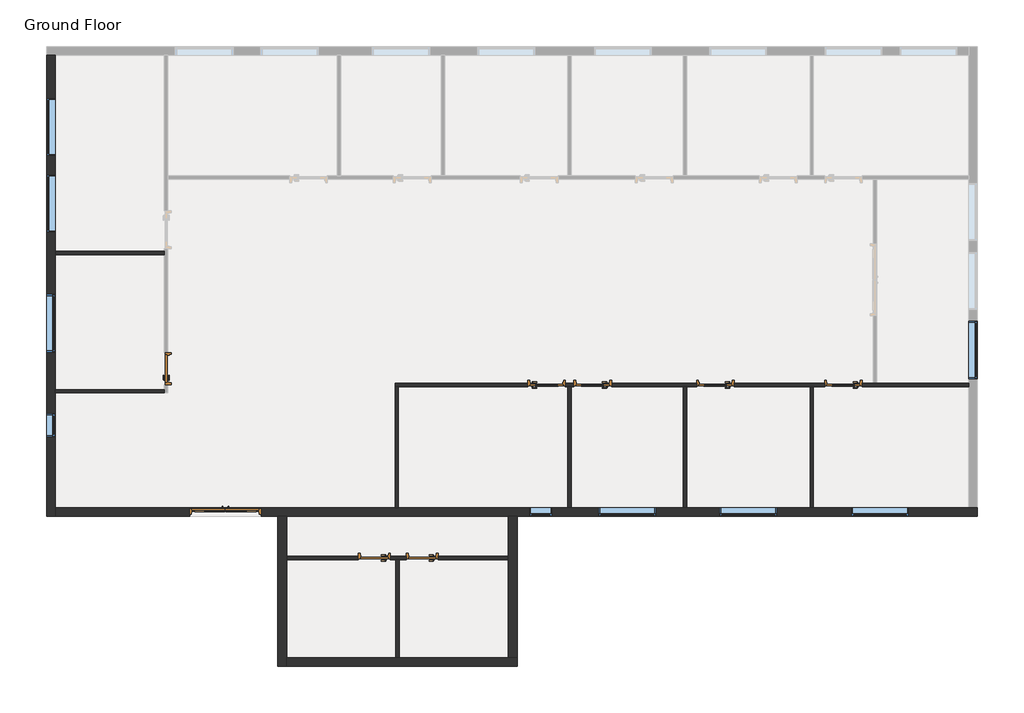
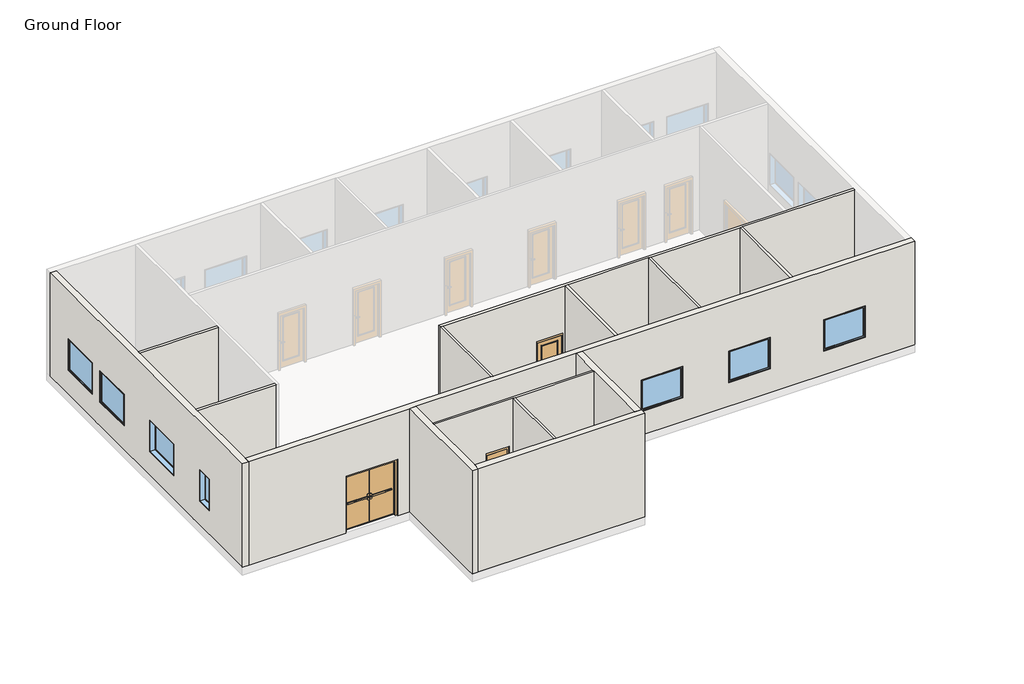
# One storey, part 1 of 2: 14 walls, 9 windows, 8 doors.
"""IFC4 building model written with IfcOpenShell, lengths in millimetres."""

from ifc_helpers import new_model, si_unit, origin, origin_with_axes, place, context, project, spatial, polyline, outline, extrude, faceted_brep, transform, mapped, element, save
from components import m_door_exterior_double_1800_x_2100mm_0d7f6d30, m_door_passage_single_flush_750_x_2100mm_cfc78163, m_door_passage_single_two_lite_900_x_2100mm_9ab57f22, m_door_passage_single_two_lite_900_x_2100mm_fdf17de1, m_fixed_0610_x_1220mm_cd310c26, m_fixed_1524_x1220_mm_ccb4a2ee

model = new_model("IFC4")

# Units and contexts
model_context = context("Model", 3, world=origin())
ifc_project = project(units=[si_unit("LENGTHUNIT", "METRE", prefix="MILLI")], contexts=[model_context])

# Site, building, storey
site = spatial("IfcSite", under=ifc_project)
building = spatial("IfcBuilding", under=site)
storey = spatial("IfcBuildingStorey", under=building, Name="Ground Floor", Elevation=0.0)

# Doors
placement = place(None, origin())
m_door_exterior_double_1800_x_2100mm_shape = m_door_exterior_double_1800_x_2100mm_0d7f6d30(model_context)
element("IfcDoor", 1, ObjectType="M_Door-Exterior-Double : 1800 x 2100mm", at=placement, inside=storey, context=model_context, shape_type="MappedRepresentation", body=[
    mapped(m_door_exterior_double_1800_x_2100mm_shape, transform((-13082.7301809, -6071.0915238, 0.0), x_axis=(1.0, 0.0, 0.0), y_axis=(0.0, 1.0, 0.0), z_axis=(0.0, 0.0, 1.0))),
])
m_door_passage_single_flush_750_x_2100mm_shape = m_door_passage_single_flush_750_x_2100mm_cfc78163(model_context)
element("IfcDoor", 2, ObjectType="M_Door-Passage-Single-Flush : 750 x 2100mm", at=placement, inside=storey, context=model_context, shape_type="MappedRepresentation", body=[
    mapped(m_door_passage_single_flush_750_x_2100mm_shape, transform((-14643.3801809, -2272.7415238, 0.0), x_axis=(0.0, 1.0, 0.0), y_axis=(-1.0, 0.0, 0.0), z_axis=(0.0, 0.0, 1.0))),
])
element("IfcDoor", 3, ObjectType="M_Door-Passage-Single-Flush : 750 x 2100mm", at=placement, inside=storey, context=model_context, shape_type="MappedRepresentation", body=[
    mapped(m_door_passage_single_flush_750_x_2100mm_shape, transform((-9144.7301809, -7277.5915238, 0.0), x_axis=(-1.0, 0.0, 0.0), y_axis=(0.0, -1.0, 0.0), z_axis=(0.0, 0.0, 1.0))),
])
element("IfcDoor", 4, ObjectType="M_Door-Passage-Single-Flush : 750 x 2100mm", at=placement, inside=storey, context=model_context, shape_type="MappedRepresentation", body=[
    mapped(m_door_passage_single_flush_750_x_2100mm_shape, transform((-7879.7301809, -7277.5915238, 0.0), x_axis=(-1.0, 0.0, 0.0), y_axis=(0.0, -1.0, 0.0), z_axis=(0.0, 0.0, 1.0))),
])
m_door_passage_single_two_lite_900_x_2100mm_shape = m_door_passage_single_two_lite_900_x_2100mm_9ab57f22(model_context)
element("IfcDoor", 5, ObjectType="M_Door-Passage-Single-Two_Lite : 900 x 2100mm", at=placement, inside=storey, context=model_context, shape_type="MappedRepresentation", body=[
    mapped(m_door_passage_single_two_lite_900_x_2100mm_shape, transform((-3371.7301809, -2705.5915238, 0.0), x_axis=(-1.0, 0.0, 0.0), y_axis=(0.0, -1.0, 0.0), z_axis=(0.0, 0.0, 1.0))),
])
element("IfcDoor", 6, ObjectType="M_Door-Passage-Single-Two_Lite : 900 x 2100mm", at=placement, inside=storey, context=model_context, shape_type="MappedRepresentation", body=[
    mapped(m_door_passage_single_two_lite_900_x_2100mm_shape, transform((-126.7301809, -2705.5915238, 0.0), x_axis=(-1.0, 0.0, 0.0), y_axis=(0.0, -1.0, 0.0), z_axis=(0.0, 0.0, 1.0))),
])
element("IfcDoor", 7, ObjectType="M_Door-Passage-Single-Two_Lite : 900 x 2100mm", at=placement, inside=storey, context=model_context, shape_type="MappedRepresentation", body=[
    mapped(m_door_passage_single_two_lite_900_x_2100mm_shape, transform((3257.0698191, -2705.5915238, 0.0), x_axis=(-1.0, 0.0, 0.0), y_axis=(0.0, -1.0, 0.0), z_axis=(0.0, 0.0, 1.0))),
])
m_door_passage_single_two_lite_900_x_2100mm_2_shape = m_door_passage_single_two_lite_900_x_2100mm_fdf17de1(model_context)
element("IfcDoor", 8, ObjectType="M_Door-Passage-Single-Two_Lite : 900 x 2100mm", at=placement, inside=storey, context=model_context, shape_type="MappedRepresentation", body=[
    mapped(m_door_passage_single_two_lite_900_x_2100mm_2_shape, transform((-4591.7301809, -2705.5915238, 0.0), x_axis=(1.0, 0.0, 0.0), y_axis=(0.0, 1.0, 0.0), z_axis=(0.0, 0.0, 1.0))),
])

# Walls
element("IfcWall", 9, ObjectType="Generic - 230mm", at=placement, inside=storey, context=model_context, shape_type="Brep", body=[
    faceted_brep([(-17582.7301809, -6179.7415238, 0.0), (-17582.7301809, -5949.7415238, 0.0), (-17582.7301809, -2917.7415238, 0.0), (-17582.7301809, -2827.7415238, 0.0), (-17582.7301809, 739.8584762, 0.0), (-17582.7301809, 829.8584762, 0.0), (-17582.7301809, 6012.2584762, 0.0), (-17582.7301809, 6012.2584762, 4000.0), (-17582.7301809, 829.8584762, 4000.0), (-17582.7301809, 739.8584762, 4000.0), (-17582.7301809, -2827.7415238, 4000.0), (-17582.7301809, -2917.7415238, 4000.0), (-17582.7301809, -5949.7415238, 4000.0), (-17582.7301809, -6179.7415238, 4000.0), (-17582.7301809, -3467.7415238, 915.0), (-17582.7301809, -4077.7415238, 915.0), (-17582.7301809, -4077.7415238, 2135.0), (-17582.7301809, -3467.7415238, 2135.0), (-17582.7301809, -310.7415238, 915.0), (-17582.7301809, -1834.7415238, 915.0), (-17582.7301809, -1834.7415238, 2135.0), (-17582.7301809, -310.7415238, 2135.0), (-17582.7301809, 1329.8584762, 915.0), (-17582.7301809, 1329.8584762, 2135.0), (-17582.7301809, 2853.8584762, 2135.0), (-17582.7301809, 2853.8584762, 915.0), (-17582.7301809, 3353.8584762, 915.0), (-17582.7301809, 3353.8584762, 2135.0), (-17582.7301809, 4877.8584762, 2135.0), (-17582.7301809, 4877.8584762, 915.0), (-17812.7301809, -6179.7415238, 0.0), (-17812.7301809, -6179.7415238, 4000.0), (-17812.7301809, 6012.2584762, 4000.0), (-17812.7301809, 6012.2584762, 0.0), (-17812.7301809, -3467.7415238, 915.0), (-17812.7301809, -3467.7415238, 2135.0), (-17812.7301809, -4077.7415238, 2135.0), (-17812.7301809, -4077.7415238, 915.0), (-17812.7301809, -310.7415238, 915.0), (-17812.7301809, -310.7415238, 2135.0), (-17812.7301809, -1834.7415238, 2135.0), (-17812.7301809, -1834.7415238, 915.0), (-17812.7301809, 1329.8584762, 915.0), (-17812.7301809, 2853.8584762, 915.0), (-17812.7301809, 2853.8584762, 2135.0), (-17812.7301809, 1329.8584762, 2135.0), (-17812.7301809, 3353.8584762, 915.0), (-17812.7301809, 4877.8584762, 915.0), (-17812.7301809, 4877.8584762, 2135.0), (-17812.7301809, 3353.8584762, 2135.0)], [[[0, 1, 2, 3, 4, 5, 6, 7, 8, 9, 10, 11, 12, 13], [14, 15, 16, 17], [18, 19, 20, 21], [22, 23, 24, 25], [26, 27, 28, 29]], [[30, 31, 32, 33], [34, 35, 36, 37], [38, 39, 40, 41], [42, 43, 44, 45], [46, 47, 48, 49]], [[6, 5, 4, 3, 2, 1, 0, 30, 33]], [[13, 12, 11, 10, 9, 8, 7, 32, 31]], [[0, 13, 31, 30]], [[7, 6, 33, 32]], [[35, 34, 14, 17]], [[36, 35, 17, 16]], [[37, 36, 16, 15]], [[34, 37, 15, 14]], [[39, 38, 18, 21]], [[40, 39, 21, 20]], [[41, 40, 20, 19]], [[38, 41, 19, 18]], [[23, 22, 42, 45]], [[24, 23, 45, 44]], [[25, 24, 44, 43]], [[22, 25, 43, 42]], [[27, 26, 46, 49]], [[28, 27, 49, 48]], [[29, 28, 48, 47]], [[26, 29, 47, 46]]]),
])
element("IfcWall", 10, ObjectType="Generic - 230mm", at=placement, inside=storey, context=model_context, shape_type="Brep", body=[
    faceted_brep([(-17582.7301809, -5949.7415238, 4000.0), (-8598.7301809, -5949.7415238, 4000.0), (-8508.7301809, -5949.7415238, 4000.0), (-4026.7301809, -5949.7415238, 4000.0), (-3936.7301809, -5949.7415238, 4000.0), (-978.7301809, -5949.7415238, 4000.0), (-888.7301809, -5949.7415238, 4000.0), (2374.0698191, -5949.7415238, 4000.0), (2464.0698191, -5949.7415238, 4000.0), (6571.2698191, -5949.7415238, 4000.0), (6801.2698191, -5949.7415238, 4000.0), (6801.2698191, -5949.7415238, 0.0), (6571.2698191, -5949.7415238, 0.0), (2464.0698191, -5949.7415238, 0.0), (2374.0698191, -5949.7415238, 0.0), (-888.7301809, -5949.7415238, 0.0), (-978.7301809, -5949.7415238, 0.0), (-3936.7301809, -5949.7415238, 0.0), (-4026.7301809, -5949.7415238, 0.0), (-8508.7301809, -5949.7415238, 0.0), (-8598.7301809, -5949.7415238, 0.0), (-12132.7301809, -5949.7415238, 0.0), (-12132.7301809, -5949.7415238, 2200.0), (-14032.7301809, -5949.7415238, 2200.0), (-14032.7301809, -5949.7415238, 0.0), (-17582.7301809, -5949.7415238, 0.0), (-4438.7301809, -5949.7415238, 915.0), (-4438.7301809, -5949.7415238, 2135.0), (-5048.7301809, -5949.7415238, 2135.0), (-5048.7301809, -5949.7415238, 915.0), (-1695.7301809, -5949.7415238, 915.0), (-1695.7301809, -5949.7415238, 2135.0), (-3219.7301809, -5949.7415238, 2135.0), (-3219.7301809, -5949.7415238, 915.0), (1504.6698191, -5949.7415238, 915.0), (1504.6698191, -5949.7415238, 2135.0), (-19.3301809, -5949.7415238, 2135.0), (-19.3301809, -5949.7415238, 915.0), (4988.0698191, -5949.7415238, 915.0), (4988.0698191, -5949.7415238, 2135.0), (3464.0698191, -5949.7415238, 2135.0), (3464.0698191, -5949.7415238, 915.0), (6801.2698191, -6179.7415238, 4000.0), (-5371.7301809, -6179.7415238, 4000.0), (-5601.7301809, -6179.7415238, 4000.0), (-11467.7301809, -6179.7415238, 4000.0), (-11697.7301809, -6179.7415238, 4000.0), (-17582.7301809, -6179.7415238, 4000.0), (-17582.7301809, -6179.7415238, 0.0), (-14032.7301809, -6179.7415238, 0.0), (-14032.7301809, -6179.7415238, 2200.0), (-12132.7301809, -6179.7415238, 2200.0), (-12132.7301809, -6179.7415238, 0.0), (-11697.7301809, -6179.7415238, 0.0), (-11467.7301809, -6179.7415238, 0.0), (-5601.7301809, -6179.7415238, 0.0), (-5371.7301809, -6179.7415238, 0.0), (6801.2698191, -6179.7415238, 0.0), (-4438.7301809, -6179.7415238, 915.0), (-5048.7301809, -6179.7415238, 915.0), (-5048.7301809, -6179.7415238, 2135.0), (-4438.7301809, -6179.7415238, 2135.0), (-1695.7301809, -6179.7415238, 915.0), (-3219.7301809, -6179.7415238, 915.0), (-3219.7301809, -6179.7415238, 2135.0), (-1695.7301809, -6179.7415238, 2135.0), (1504.6698191, -6179.7415238, 915.0), (-19.3301809, -6179.7415238, 915.0), (-19.3301809, -6179.7415238, 2135.0), (1504.6698191, -6179.7415238, 2135.0), (4988.0698191, -6179.7415238, 915.0), (3464.0698191, -6179.7415238, 915.0), (3464.0698191, -6179.7415238, 2135.0), (4988.0698191, -6179.7415238, 2135.0)], [[[0, 1, 2, 3, 4, 5, 6, 7, 8, 9, 10, 11, 12, 13, 14, 15, 16, 17, 18, 19, 20, 21, 22, 23, 24, 25], [26, 27, 28, 29], [30, 31, 32, 33], [34, 35, 36, 37], [38, 39, 40, 41]], [[42, 43, 44, 45, 46, 47, 48, 49, 50, 51, 52, 53, 54, 55, 56, 57], [58, 59, 60, 61], [62, 63, 64, 65], [66, 67, 68, 69], [70, 71, 72, 73]], [[11, 57, 56, 55, 54, 53, 52, 21, 20, 19, 18, 17, 16, 15, 14, 13, 12]], [[48, 25, 24, 49]], [[10, 9, 8, 7, 6, 5, 4, 3, 2, 1, 0, 47, 46, 45, 44, 43, 42]], [[11, 10, 42, 57]], [[0, 25, 48, 47]], [[51, 22, 21, 52]], [[22, 51, 50, 23]], [[23, 50, 49, 24]], [[27, 26, 58, 61]], [[28, 27, 61, 60]], [[29, 28, 60, 59]], [[26, 29, 59, 58]], [[31, 30, 62, 65]], [[32, 31, 65, 64]], [[33, 32, 64, 63]], [[30, 33, 63, 62]], [[35, 34, 66, 69]], [[36, 35, 69, 68]], [[37, 36, 68, 67]], [[34, 37, 67, 66]], [[39, 38, 70, 73]], [[40, 39, 73, 72]], [[41, 40, 72, 71]], [[38, 41, 71, 70]]]),
])
element("IfcWall", 11, ObjectType="Generic - 230mm", at=placement, inside=storey, context=model_context, shape_type="Brep", body=[
    faceted_brep([(-11697.7301809, -6179.7415238, 0.0), (-11697.7301809, -10142.1415238, 0.0), (-11697.7301809, -10142.1415238, 4000.0), (-11697.7301809, -6179.7415238, 4000.0), (-11467.7301809, -6179.7415238, 0.0), (-11467.7301809, -6179.7415238, 4000.0), (-11467.7301809, -7238.9415238, 4000.0), (-11467.7301809, -7328.9415238, 4000.0), (-11467.7301809, -9912.1415238, 4000.0), (-11467.7301809, -10142.1415238, 4000.0), (-11467.7301809, -10142.1415238, 0.0), (-11467.7301809, -9912.1415238, 0.0), (-11467.7301809, -7328.9415238, 0.0), (-11467.7301809, -7238.9415238, 0.0)], [[[0, 1, 2, 3]], [[4, 5, 6, 7, 8, 9, 10, 11, 12, 13]], [[1, 0, 4, 13, 12, 11, 10]], [[3, 2, 9, 8, 7, 6, 5]], [[0, 3, 5, 4]], [[2, 1, 10, 9]]]),
])
element("IfcWall", 12, ObjectType="Generic - 230mm", at=placement, inside=storey, context=model_context, shape_type="Brep", body=[
    faceted_brep([(-11467.7301809, -10142.1415238, 0.0), (-5371.7301809, -10142.1415238, 0.0), (-5371.7301809, -10142.1415238, 4000.0), (-11467.7301809, -10142.1415238, 4000.0), (-11467.7301809, -9912.1415238, 0.0), (-11467.7301809, -9912.1415238, 4000.0), (-8579.7301809, -9912.1415238, 4000.0), (-8489.7301809, -9912.1415238, 4000.0), (-5601.7301809, -9912.1415238, 4000.0), (-5371.7301809, -9912.1415238, 4000.0), (-5371.7301809, -9912.1415238, 0.0), (-5601.7301809, -9912.1415238, 0.0), (-8489.7301809, -9912.1415238, 0.0), (-8579.7301809, -9912.1415238, 0.0)], [[[0, 1, 2, 3]], [[4, 5, 6, 7, 8, 9, 10, 11, 12, 13]], [[1, 0, 4, 13, 12, 11, 10]], [[3, 2, 9, 8, 7, 6, 5]], [[0, 3, 5, 4]], [[2, 1, 10, 9]]]),
])
element("IfcWall", 13, ObjectType="Generic - 230mm", at=placement, inside=storey, context=model_context, shape_type="Brep", body=[
    faceted_brep([(-5371.7301809, -9912.1415238, 0.0), (-5371.7301809, -6179.7415238, 0.0), (-5371.7301809, -6179.7415238, 4000.0), (-5371.7301809, -9912.1415238, 4000.0), (-5601.7301809, -9912.1415238, 0.0), (-5601.7301809, -9912.1415238, 4000.0), (-5601.7301809, -7328.9415238, 4000.0), (-5601.7301809, -7238.9415238, 4000.0), (-5601.7301809, -6179.7415238, 4000.0), (-5601.7301809, -6179.7415238, 0.0), (-5601.7301809, -7238.9415238, 0.0), (-5601.7301809, -7328.9415238, 0.0)], [[[0, 1, 2, 3]], [[4, 5, 6, 7, 8, 9, 10, 11]], [[1, 0, 4, 11, 10, 9]], [[3, 2, 8, 7, 6, 5]], [[0, 3, 5, 4]], [[2, 1, 9, 8]]]),
])
element("IfcWall", 14, ObjectType="Generic - 90mm Brick", at=placement, inside=storey, context=model_context, shape_type="SweptSolid", body=[
    extrude(outline(polyline([(-17582.7301809, -2827.7415238), (-14694.7301809, -2827.7415238), (-14694.7301809, -2917.7415238), (-17582.7301809, -2917.7415238), (-17582.7301809, -2827.7415238)])), origin_with_axes(), (0.0, 0.0, 1.0), 4000.0),
])
element("IfcWall", 15, ObjectType="Generic - 90mm Brick", at=placement, inside=storey, context=model_context, shape_type="Brep", body=[
    faceted_brep([(-8598.7301809, -2666.9415238, 4000.0), (4050.4698191, -2666.9415238, 4000.0), (4140.4698191, -2666.9415238, 4000.0), (6571.2698191, -2666.9415238, 4000.0), (6571.2698191, -2666.9415238, 0.0), (4140.4698191, -2666.9415238, 0.0), (4050.4698191, -2666.9415238, 0.0), (3757.0698191, -2666.9415238, 0.0), (3757.0698191, -2666.9415238, 2200.0), (2757.0698191, -2666.9415238, 2200.0), (2757.0698191, -2666.9415238, 0.0), (373.2698191, -2666.9415238, 0.0), (373.2698191, -2666.9415238, 2200.0), (-626.7301809, -2666.9415238, 2200.0), (-626.7301809, -2666.9415238, 0.0), (-2871.7301809, -2666.9415238, 0.0), (-2871.7301809, -2666.9415238, 2200.0), (-3871.7301809, -2666.9415238, 2200.0), (-3871.7301809, -2666.9415238, 0.0), (-4091.7301809, -2666.9415238, 0.0), (-4091.7301809, -2666.9415238, 2200.0), (-5091.7301809, -2666.9415238, 2200.0), (-5091.7301809, -2666.9415238, 0.0), (-8598.7301809, -2666.9415238, 0.0), (6571.2698191, -2756.9415238, 4000.0), (2464.0698191, -2756.9415238, 4000.0), (2374.0698191, -2756.9415238, 4000.0), (-888.7301809, -2756.9415238, 4000.0), (-978.7301809, -2756.9415238, 4000.0), (-3936.7301809, -2756.9415238, 4000.0), (-4026.7301809, -2756.9415238, 4000.0), (-8508.7301809, -2756.9415238, 4000.0), (-8598.7301809, -2756.9415238, 4000.0), (-8598.7301809, -2756.9415238, 0.0), (-8508.7301809, -2756.9415238, 0.0), (-5091.7301809, -2756.9415238, 0.0), (-5091.7301809, -2756.9415238, 2200.0), (-4091.7301809, -2756.9415238, 2200.0), (-4091.7301809, -2756.9415238, 0.0), (-4026.7301809, -2756.9415238, 0.0), (-3936.7301809, -2756.9415238, 0.0), (-3871.7301809, -2756.9415238, 0.0), (-3871.7301809, -2756.9415238, 2200.0), (-2871.7301809, -2756.9415238, 2200.0), (-2871.7301809, -2756.9415238, 0.0), (-978.7301809, -2756.9415238, 0.0), (-888.7301809, -2756.9415238, 0.0), (-626.7301809, -2756.9415238, 0.0), (-626.7301809, -2756.9415238, 2200.0), (373.2698191, -2756.9415238, 2200.0), (373.2698191, -2756.9415238, 0.0), (2374.0698191, -2756.9415238, 0.0), (2464.0698191, -2756.9415238, 0.0), (2757.0698191, -2756.9415238, 0.0), (2757.0698191, -2756.9415238, 2200.0), (3757.0698191, -2756.9415238, 2200.0), (3757.0698191, -2756.9415238, 0.0), (6571.2698191, -2756.9415238, 0.0)], [[[0, 1, 2, 3, 4, 5, 6, 7, 8, 9, 10, 11, 12, 13, 14, 15, 16, 17, 18, 19, 20, 21, 22, 23]], [[24, 25, 26, 27, 28, 29, 30, 31, 32, 33, 34, 35, 36, 37, 38, 39, 40, 41, 42, 43, 44, 45, 46, 47, 48, 49, 50, 51, 52, 53, 54, 55, 56, 57]], [[4, 57, 56, 7, 6, 5]], [[33, 23, 22, 35, 34]], [[38, 19, 18, 41, 40, 39]], [[44, 15, 14, 47, 46, 45]], [[50, 11, 10, 53, 52, 51]], [[3, 2, 1, 0, 32, 31, 30, 29, 28, 27, 26, 25, 24]], [[4, 3, 24, 57]], [[0, 23, 33, 32]], [[20, 19, 38, 37]], [[21, 20, 37, 36]], [[22, 21, 36, 35]], [[18, 17, 42, 41]], [[17, 16, 43, 42]], [[16, 15, 44, 43]], [[13, 48, 47, 14]], [[48, 13, 12, 49]], [[49, 12, 11, 50]], [[9, 54, 53, 10]], [[54, 9, 8, 55]], [[55, 8, 7, 56]]]),
])
element("IfcWall", 16, ObjectType="Generic - 90mm Brick", at=placement, inside=storey, context=model_context, shape_type="SweptSolid", body=[
    extrude(outline(polyline([(-8598.7301809, -5949.7415238), (-8598.7301809, -2756.9415238), (-8508.7301809, -2756.9415238), (-8508.7301809, -5949.7415238), (-8598.7301809, -5949.7415238)])), origin_with_axes(), (0.0, 0.0, 1.0), 4000.0),
])
element("IfcWall", 17, ObjectType="Generic - 90mm Brick", at=placement, inside=storey, context=model_context, shape_type="SweptSolid", body=[
    extrude(outline(polyline([(2374.0698191, -5949.7415238), (2374.0698191, -2756.9415238), (2464.0698191, -2756.9415238), (2464.0698191, -5949.7415238), (2374.0698191, -5949.7415238)])), origin_with_axes(), (0.0, 0.0, 1.0), 4000.0),
])
element("IfcWall", 18, ObjectType="Generic - 90mm Brick", at=placement, inside=storey, context=model_context, shape_type="SweptSolid", body=[
    extrude(outline(polyline([(-978.7301809, -5949.7415238), (-978.7301809, -2756.9415238), (-888.7301809, -2756.9415238), (-888.7301809, -5949.7415238), (-978.7301809, -5949.7415238)])), origin_with_axes(), (0.0, 0.0, 1.0), 4000.0),
])
element("IfcWall", 19, ObjectType="Generic - 90mm Brick", at=placement, inside=storey, context=model_context, shape_type="SweptSolid", body=[
    extrude(outline(polyline([(-4026.7301809, -5949.7415238), (-4026.7301809, -2756.9415238), (-3936.7301809, -2756.9415238), (-3936.7301809, -5949.7415238), (-4026.7301809, -5949.7415238)])), origin_with_axes(), (0.0, 0.0, 1.0), 4000.0),
])
element("IfcWall", 20, ObjectType="Generic - 90mm Brick", at=placement, inside=storey, context=model_context, shape_type="Brep", body=[
    faceted_brep([(-5601.7301809, -7328.9415238, 4000.0), (-8489.7301809, -7328.9415238, 4000.0), (-8579.7301809, -7328.9415238, 4000.0), (-11467.7301809, -7328.9415238, 4000.0), (-11467.7301809, -7328.9415238, 0.0), (-9569.7301809, -7328.9415238, 0.0), (-9569.7301809, -7328.9415238, 2200.0), (-8719.7301809, -7328.9415238, 2200.0), (-8719.7301809, -7328.9415238, 0.0), (-8579.7301809, -7328.9415238, 0.0), (-8489.7301809, -7328.9415238, 0.0), (-8304.7301809, -7328.9415238, 0.0), (-8304.7301809, -7328.9415238, 2200.0), (-7454.7301809, -7328.9415238, 2200.0), (-7454.7301809, -7328.9415238, 0.0), (-5601.7301809, -7328.9415238, 0.0), (-11467.7301809, -7238.9415238, 4000.0), (-5601.7301809, -7238.9415238, 4000.0), (-5601.7301809, -7238.9415238, 0.0), (-7454.7301809, -7238.9415238, 0.0), (-7454.7301809, -7238.9415238, 2200.0), (-8304.7301809, -7238.9415238, 2200.0), (-8304.7301809, -7238.9415238, 0.0), (-8719.7301809, -7238.9415238, 0.0), (-8719.7301809, -7238.9415238, 2200.0), (-9569.7301809, -7238.9415238, 2200.0), (-9569.7301809, -7238.9415238, 0.0), (-11467.7301809, -7238.9415238, 0.0)], [[[0, 1, 2, 3, 4, 5, 6, 7, 8, 9, 10, 11, 12, 13, 14, 15]], [[16, 17, 18, 19, 20, 21, 22, 23, 24, 25, 26, 27]], [[4, 27, 26, 5]], [[18, 15, 14, 19]], [[8, 23, 22, 11, 10, 9]], [[3, 2, 1, 0, 17, 16]], [[4, 3, 16, 27]], [[0, 15, 18, 17]], [[25, 6, 5, 26]], [[6, 25, 24, 7]], [[7, 24, 23, 8]], [[21, 12, 11, 22]], [[12, 21, 20, 13]], [[13, 20, 19, 14]]]),
])
element("IfcWall", 21, ObjectType="Generic - 90mm Brick", at=placement, inside=storey, context=model_context, shape_type="SweptSolid", body=[
    extrude(outline(polyline([(-8579.7301809, -9912.1415238), (-8579.7301809, -7328.9415238), (-8489.7301809, -7328.9415238), (-8489.7301809, -9912.1415238), (-8579.7301809, -9912.1415238)])), origin_with_axes(), (0.0, 0.0, 1.0), 4000.0),
])
element("IfcWall", 22, ObjectType="Generic - 90mm Brick", at=placement, inside=storey, context=model_context, shape_type="SweptSolid", body=[
    extrude(outline(polyline([(-17582.7301809, 829.8584762), (-14694.7301809, 829.8584762), (-14694.7301809, 739.8584762), (-17582.7301809, 739.8584762), (-17582.7301809, 829.8584762)])), origin_with_axes(), (0.0, 0.0, 1.0), 4000.0),
])

# Windows
m_fixed_0610_x_1220mm_shape = m_fixed_0610_x_1220mm_cd310c26(model_context)
element("IfcWindow", 23, ObjectType="M_Fixed : 0610 x 1220mm", at=placement, inside=storey, context=model_context, shape_type="MappedRepresentation", body=[
    mapped(m_fixed_0610_x_1220mm_shape, transform((-17710.7301809, -3772.7415238, 0.0), x_axis=(0.0, -1.0, 0.0), y_axis=(1.0, 0.0, 0.0), z_axis=(0.0, 0.0, 1.0))),
])
element("IfcWindow", 24, ObjectType="M_Fixed : 0610 x 1220mm", at=placement, inside=storey, context=model_context, shape_type="MappedRepresentation", body=[
    mapped(m_fixed_0610_x_1220mm_shape, transform((-4743.7301809, -6051.7415238, 0.0), x_axis=(-1.0, 0.0, 0.0), y_axis=(0.0, -1.0, 0.0), z_axis=(0.0, 0.0, 1.0))),
])
m_fixed_1524_x1220_mm_shape = m_fixed_1524_x1220_mm_ccb4a2ee(model_context)
element("IfcWindow", 25, ObjectType="M_Fixed : 1524 x1220 mm", at=placement, inside=storey, context=model_context, shape_type="MappedRepresentation", body=[
    mapped(m_fixed_1524_x1220_mm_shape, transform((-17710.7301809, -1072.7415238, 0.0), x_axis=(0.0, -1.0, 0.0), y_axis=(1.0, 0.0, 0.0), z_axis=(0.0, 0.0, 1.0))),
])
element("IfcWindow", 26, ObjectType="M_Fixed : 1524 x1220 mm", at=placement, inside=storey, context=model_context, shape_type="MappedRepresentation", body=[
    mapped(m_fixed_1524_x1220_mm_shape, transform((-17684.7301809, 2091.8584762, 0.0), x_axis=(0.0, 1.0, 0.0), y_axis=(-1.0, 0.0, 0.0), z_axis=(0.0, 0.0, 1.0))),
])
element("IfcWindow", 27, ObjectType="M_Fixed : 1524 x1220 mm", at=placement, inside=storey, context=model_context, shape_type="MappedRepresentation", body=[
    mapped(m_fixed_1524_x1220_mm_shape, transform((-17684.7301809, 4115.8584762, 0.0), x_axis=(0.0, 1.0, 0.0), y_axis=(-1.0, 0.0, 0.0), z_axis=(0.0, 0.0, 1.0))),
])
element("IfcWindow", 28, ObjectType="M_Fixed : 1524 x1220 mm", at=placement, inside=storey, context=model_context, shape_type="MappedRepresentation", body=[
    mapped(m_fixed_1524_x1220_mm_shape, transform((6673.2698191, -1780.5415238, 0.0), x_axis=(0.0, -1.0, 0.0), y_axis=(1.0, 0.0, 0.0), z_axis=(0.0, 0.0, 1.0))),
])
element("IfcWindow", 29, ObjectType="M_Fixed : 1524 x1220 mm", at=placement, inside=storey, context=model_context, shape_type="MappedRepresentation", body=[
    mapped(m_fixed_1524_x1220_mm_shape, transform((-2457.7301809, -6051.7415238, 0.0), x_axis=(-1.0, 0.0, 0.0), y_axis=(0.0, -1.0, 0.0), z_axis=(0.0, 0.0, 1.0))),
])
element("IfcWindow", 30, ObjectType="M_Fixed : 1524 x1220 mm", at=placement, inside=storey, context=model_context, shape_type="MappedRepresentation", body=[
    mapped(m_fixed_1524_x1220_mm_shape, transform((742.6698191, -6051.7415238, 0.0), x_axis=(-1.0, 0.0, 0.0), y_axis=(0.0, -1.0, 0.0), z_axis=(0.0, 0.0, 1.0))),
])
element("IfcWindow", 31, ObjectType="M_Fixed : 1524 x1220 mm", at=placement, inside=storey, context=model_context, shape_type="MappedRepresentation", body=[
    mapped(m_fixed_1524_x1220_mm_shape, transform((4226.0698191, -6051.7415238, 0.0), x_axis=(-1.0, 0.0, 0.0), y_axis=(0.0, -1.0, 0.0), z_axis=(0.0, 0.0, 1.0))),
])

save(model, "model.ifc")
